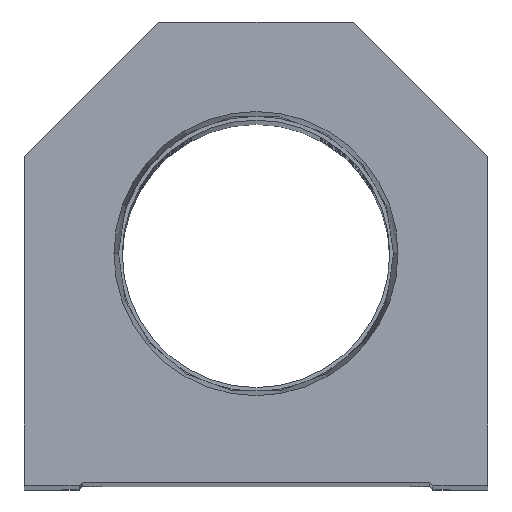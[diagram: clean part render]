
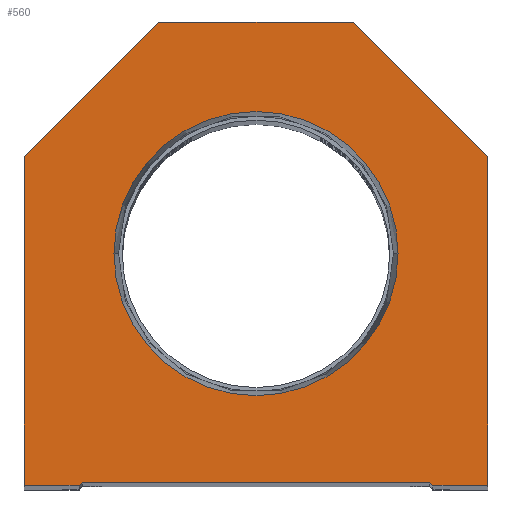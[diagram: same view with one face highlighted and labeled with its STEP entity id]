
A CAD part, top view. The second image highlights one B-rep face of the part: STEP entity #560.
In plain terms, the highlighted planar face has unit normal (0, 0, 1).
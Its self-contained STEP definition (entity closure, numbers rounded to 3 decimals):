
#100 = VECTOR ( 'NONE', #16842, 1000. ) ;
#560 = ADVANCED_FACE ( 'NONE', ( #14974, #10392 ), #19437, .T. ) ;
#1092 = ORIENTED_EDGE ( 'NONE', *, *, #18874, .T. ) ;
#1193 = DIRECTION ( 'NONE',  ( 1., 0., 0. ) ) ;
#1303 = EDGE_CURVE ( 'NONE', #11534, #9979, #14406, .T. ) ;
#1386 = CARTESIAN_POINT ( 'NONE',  ( 0., 0., 0. ) ) ;
#1465 = EDGE_CURVE ( 'NONE', #9979, #4198, #16710, .T. ) ;
#1540 = DIRECTION ( 'NONE',  ( 0., -1., 0. ) ) ;
#1593 = LINE ( 'NONE', #9205, #9570 ) ;
#1675 = CARTESIAN_POINT ( 'NONE',  ( -38.1, 54.1, 0. ) ) ;
#1729 = CARTESIAN_POINT ( 'NONE',  ( 16., 76.2, 0. ) ) ;
#1764 = ORIENTED_EDGE ( 'NONE', *, *, #1303, .T. ) ;
#2007 = CARTESIAN_POINT ( 'NONE',  ( 28.6, 0., 0. ) ) ;
#2167 = DIRECTION ( 'NONE',  ( 0., 0., 1. ) ) ;
#2461 = VERTEX_POINT ( 'NONE', #18737 ) ;
#2888 = CARTESIAN_POINT ( 'NONE',  ( 29.1, 0., 0. ) ) ;
#3262 = DIRECTION ( 'NONE',  ( -0.707, 0.707, 0. ) ) ;
#3387 = LINE ( 'NONE', #6264, #8487 ) ;
#3455 = CARTESIAN_POINT ( 'NONE',  ( 0., 38.1, 0. ) ) ;
#3788 = ORIENTED_EDGE ( 'NONE', *, *, #11094, .T. ) ;
#3824 = AXIS2_PLACEMENT_3D ( 'NONE', #3455, #2167, #6602 ) ;
#4045 = DIRECTION ( 'NONE',  ( 0., 0., 1. ) ) ;
#4198 = VERTEX_POINT ( 'NONE', #13642 ) ;
#4410 = LINE ( 'NONE', #11863, #100 ) ;
#4448 = VERTEX_POINT ( 'NONE', #16794 ) ;
#4969 = CARTESIAN_POINT ( 'NONE',  ( -29.1, 0., 0. ) ) ;
#5604 = VERTEX_POINT ( 'NONE', #8364 ) ;
#5605 = EDGE_LOOP ( 'NONE', ( #6940, #1764, #11348, #18193, #5819, #18148, #1092, #13190, #3788, #19597 ) ) ;
#5819 = ORIENTED_EDGE ( 'NONE', *, *, #12160, .T. ) ;
#6127 = DIRECTION ( 'NONE',  ( -0.707, -0.707, 0. ) ) ;
#6181 = VECTOR ( 'NONE', #17122, 1000. ) ;
#6264 = CARTESIAN_POINT ( 'NONE',  ( -38.1, 0., 0. ) ) ;
#6405 = LINE ( 'NONE', #1675, #16342 ) ;
#6550 = EDGE_CURVE ( 'NONE', #17542, #2461, #4410, .T. ) ;
#6602 = DIRECTION ( 'NONE',  ( 1., 0., 0. ) ) ;
#6620 = CARTESIAN_POINT ( 'NONE',  ( -14.55, 14.55, 0. ) ) ;
#6940 = ORIENTED_EDGE ( 'NONE', *, *, #10861, .T. ) ;
#6965 = ORIENTED_EDGE ( 'NONE', *, *, #7257, .F. ) ;
#7047 = CARTESIAN_POINT ( 'NONE',  ( 16., 76.2, 0. ) ) ;
#7157 = DIRECTION ( 'NONE',  ( -1., 0., 0. ) ) ;
#7257 = EDGE_CURVE ( 'NONE', #7949, #4448, #7926, .T. ) ;
#7322 = DIRECTION ( 'NONE',  ( 1., 0., 0. ) ) ;
#7926 = CIRCLE ( 'NONE', #3824, 23.374 ) ;
#7949 = VERTEX_POINT ( 'NONE', #15170 ) ;
#8165 = VERTEX_POINT ( 'NONE', #2888 ) ;
#8170 = CARTESIAN_POINT ( 'NONE',  ( 38.1, 0., 0. ) ) ;
#8311 = VECTOR ( 'NONE', #8949, 1000. ) ;
#8364 = CARTESIAN_POINT ( 'NONE',  ( -38.1, 54.1, 0. ) ) ;
#8487 = VECTOR ( 'NONE', #1540, 1000. ) ;
#8498 = EDGE_CURVE ( 'NONE', #4198, #8165, #13551, .T. ) ;
#8502 = LINE ( 'NONE', #15991, #10876 ) ;
#8949 = DIRECTION ( 'NONE',  ( 0.707, -0.707, 0. ) ) ;
#9092 = CARTESIAN_POINT ( 'NONE',  ( -28.6, 0.5, 0. ) ) ;
#9205 = CARTESIAN_POINT ( 'NONE',  ( 38.1, 54.1, 0. ) ) ;
#9332 = CIRCLE ( 'NONE', #11892, 23.374 ) ;
#9570 = VECTOR ( 'NONE', #3262, 1000. ) ;
#9811 = CARTESIAN_POINT ( 'NONE',  ( -38.1, 0., 0. ) ) ;
#9979 = VERTEX_POINT ( 'NONE', #9092 ) ;
#10144 = CARTESIAN_POINT ( 'NONE',  ( -16., 76.2, 0. ) ) ;
#10392 = FACE_OUTER_BOUND ( 'NONE', #5605, .T. ) ;
#10861 = EDGE_CURVE ( 'NONE', #18698, #11534, #8502, .T. ) ;
#10876 = VECTOR ( 'NONE', #13013, 1000. ) ;
#11094 = EDGE_CURVE ( 'NONE', #16201, #5604, #6405, .T. ) ;
#11348 = ORIENTED_EDGE ( 'NONE', *, *, #1465, .T. ) ;
#11501 = VECTOR ( 'NONE', #7322, 1000. ) ;
#11514 = DIRECTION ( 'NONE',  ( 0.707, 0.707, 0. ) ) ;
#11534 = VERTEX_POINT ( 'NONE', #4969 ) ;
#11605 = EDGE_CURVE ( 'NONE', #4448, #7949, #9332, .T. ) ;
#11742 = ORIENTED_EDGE ( 'NONE', *, *, #11605, .F. ) ;
#11863 = CARTESIAN_POINT ( 'NONE',  ( 38.1, 0., 0. ) ) ;
#11892 = AXIS2_PLACEMENT_3D ( 'NONE', #18355, #15380, #16884 ) ;
#12160 = EDGE_CURVE ( 'NONE', #8165, #17542, #12945, .T. ) ;
#12861 = LINE ( 'NONE', #7047, #18981 ) ;
#12945 = LINE ( 'NONE', #2007, #6181 ) ;
#13013 = DIRECTION ( 'NONE',  ( 1., 0., 0. ) ) ;
#13190 = ORIENTED_EDGE ( 'NONE', *, *, #16219, .T. ) ;
#13551 = LINE ( 'NONE', #17814, #8311 ) ;
#13642 = CARTESIAN_POINT ( 'NONE',  ( 28.6, 0.5, 0. ) ) ;
#14042 = EDGE_LOOP ( 'NONE', ( #6965, #11742 ) ) ;
#14406 = LINE ( 'NONE', #6620, #14987 ) ;
#14927 = EDGE_CURVE ( 'NONE', #5604, #18698, #3387, .T. ) ;
#14974 = FACE_BOUND ( 'NONE', #14042, .T. ) ;
#14987 = VECTOR ( 'NONE', #11514, 1000. ) ;
#15170 = CARTESIAN_POINT ( 'NONE',  ( 23.374, 38.1, 0. ) ) ;
#15380 = DIRECTION ( 'NONE',  ( 0., 0., 1. ) ) ;
#15991 = CARTESIAN_POINT ( 'NONE',  ( -28.6, 0., 0. ) ) ;
#16201 = VERTEX_POINT ( 'NONE', #10144 ) ;
#16219 = EDGE_CURVE ( 'NONE', #17653, #16201, #12861, .T. ) ;
#16342 = VECTOR ( 'NONE', #6127, 1000. ) ;
#16415 = CARTESIAN_POINT ( 'NONE',  ( -28.6, 0.5, 0. ) ) ;
#16710 = LINE ( 'NONE', #16415, #11501 ) ;
#16794 = CARTESIAN_POINT ( 'NONE',  ( -23.374, 38.1, 0. ) ) ;
#16842 = DIRECTION ( 'NONE',  ( 0., 1., 0. ) ) ;
#16884 = DIRECTION ( 'NONE',  ( 1., 0., 0. ) ) ;
#17122 = DIRECTION ( 'NONE',  ( 1., 0., 0. ) ) ;
#17542 = VERTEX_POINT ( 'NONE', #8170 ) ;
#17653 = VERTEX_POINT ( 'NONE', #1729 ) ;
#17814 = CARTESIAN_POINT ( 'NONE',  ( 14.55, 14.55, 0. ) ) ;
#17834 = AXIS2_PLACEMENT_3D ( 'NONE', #1386, #4045, #1193 ) ;
#18148 = ORIENTED_EDGE ( 'NONE', *, *, #6550, .T. ) ;
#18193 = ORIENTED_EDGE ( 'NONE', *, *, #8498, .T. ) ;
#18355 = CARTESIAN_POINT ( 'NONE',  ( 0., 38.1, 0. ) ) ;
#18698 = VERTEX_POINT ( 'NONE', #9811 ) ;
#18737 = CARTESIAN_POINT ( 'NONE',  ( 38.1, 54.1, 0. ) ) ;
#18874 = EDGE_CURVE ( 'NONE', #2461, #17653, #1593, .T. ) ;
#18981 = VECTOR ( 'NONE', #7157, 1000. ) ;
#19437 = PLANE ( 'NONE',  #17834 ) ;
#19597 = ORIENTED_EDGE ( 'NONE', *, *, #14927, .T. ) ;
